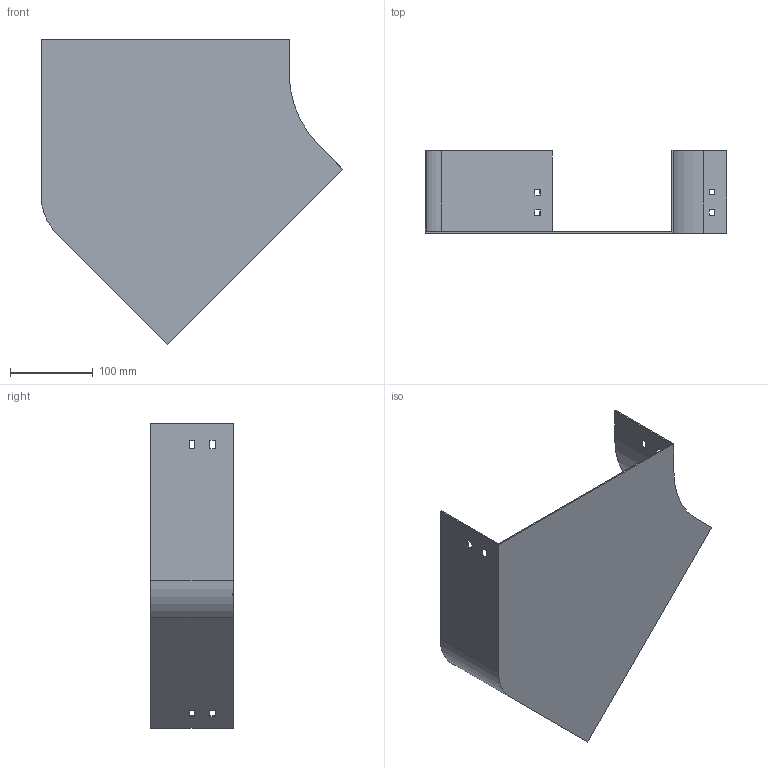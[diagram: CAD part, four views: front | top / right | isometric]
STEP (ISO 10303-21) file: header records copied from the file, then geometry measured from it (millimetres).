
FILE_DESCRIPTION (( 'STEP AP214' ), '1' );
FILE_NAME ('P4_301.step', '2025-07-16T09:19:19', ( '' ), ( '' ), 'SwSTEP 2.0', 'SolidWorks 2023', '' );
FILE_SCHEMA (( 'AUTOMOTIVE_DESIGN' ));
Length unit declared in the file: millimetre
Products named in the file (1): P4_301
Bounding box: 364.9 x 100 x 368.8 mm (x, y, z)
Volume: 227824.1 mm3; surface area: 306575.8 mm2
Topology: 1 solids, 1 shells, 50 faces, 144 edges, 96 vertices
Faces by surface type: plane 46, cylinder 4
Entity records: 1671 total; most frequent: CARTESIAN_POINT 291, ORIENTED_EDGE 288, DIRECTION 254, EDGE_CURVE 144, LINE 136, VECTOR 136, VERTEX_POINT 96, EDGE_LOOP 66
